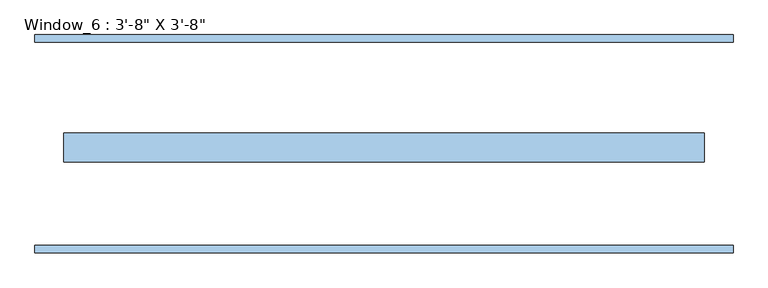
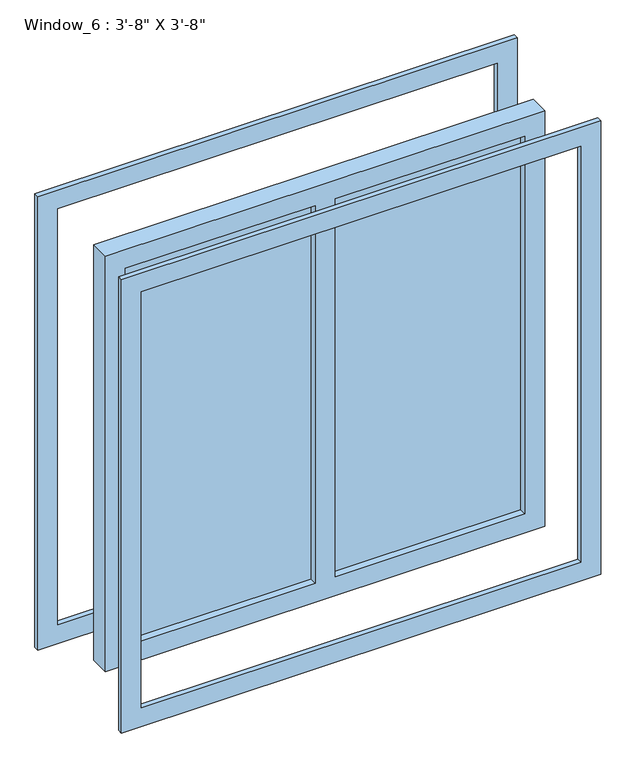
"""IFC4 building model written with IfcOpenShell, lengths in millimetres: window geometry."""

from ifc_helpers import new_model, si_unit, frame, origin, place, context, project, spatial, polyline, outline, extrude, source, transform, mapped, element, save


def window_b5689cda(model_context):
    return source(origin(), model_context, "Body", "SweptSolid", [
        extrude(outline(polyline([(520.7, 0.0), (520.7, -12.7), (38.1, -12.7), (38.1, 0.0), (520.7, 0.0)])), frame((0.0, 0.0, 863.6), z_axis=(0.0, 0.0, 1.0), x_axis=(1.0, 0.0, 0.0)), (0.0, 0.0, 1.0), 1016.0),
        extrude(outline(polyline([(-12.7, 0.0), (-12.7, -12.7), (-495.3, -12.7), (-495.3, 0.0), (-12.7, 0.0)])), frame((0.0, 0.0, 863.6), z_axis=(0.0, 0.0, 1.0), x_axis=(1.0, 0.0, 0.0)), (0.0, 0.0, 1.0), 1016.0),
        extrude(outline(polyline([(1930.4, -546.1), (812.8, -546.1), (812.8, 571.5), (1930.4, 571.5), (1930.4, -546.1)]), holes=[polyline([(863.6, -495.3), (1879.6, -495.3), (1879.6, -12.7), (863.6, -12.7), (863.6, -495.3)]), polyline([(1879.6, 38.1), (1879.6, 520.7), (863.6, 520.7), (863.6, 38.1), (1879.6, 38.1)])]), frame((0.0, -31.75, 0.0), z_axis=(0.0, 1.0, 0.0), x_axis=(0.0, 0.0, 1.0)), (0.0, 0.0, 1.0), 50.8),
        extrude(outline(polyline([(1981.2, -596.9), (762.0, -596.9), (762.0, 622.3), (1981.2, 622.3), (1981.2, -596.9)]), holes=[polyline([(1930.4, -546.1), (1930.4, 571.5), (812.8, 571.5), (812.8, -546.1), (1930.4, -546.1)])]), frame((0.0, -190.5, 0.0), z_axis=(0.0, 1.0, 0.0), x_axis=(0.0, 0.0, 1.0)), (0.0, 0.0, 1.0), 12.7),
        extrude(outline(polyline([(1981.2, -596.9), (762.0, -596.9), (762.0, 622.3), (1981.2, 622.3), (1981.2, -596.9)]), holes=[polyline([(812.8, 571.5), (812.8, -546.1), (1930.4, -546.1), (1930.4, 571.5), (812.8, 571.5)])]), frame((0.0, 177.8, 0.0), z_axis=(0.0, 1.0, 0.0), x_axis=(0.0, 0.0, 1.0)), (0.0, 0.0, 1.0), 12.7),
    ])


if __name__ == "__main__":
    model = new_model("IFC4")
    model_context = context("Model", 3, world=origin())
    ifc_project = project(units=[si_unit("LENGTHUNIT", "METRE", prefix="MILLI")], contexts=[model_context])
    site = spatial("IfcSite", under=ifc_project)
    building = spatial("IfcBuilding", under=site)
    placement = place(None, origin())
    window_shape = window_b5689cda(model_context)
    element("IfcWindow", 1, ObjectType="Window_6 : 3'-8\" X 3'-8\"", at=placement, inside=building, context=model_context, shape_type="MappedRepresentation", body=[
        mapped(window_shape, transform((0.0, 0.0, 0.0), x_axis=(1.0, 0.0, 0.0), y_axis=(0.0, 1.0, 0.0), z_axis=(0.0, 0.0, 1.0))),
    ])
    save(model, "model.ifc")
